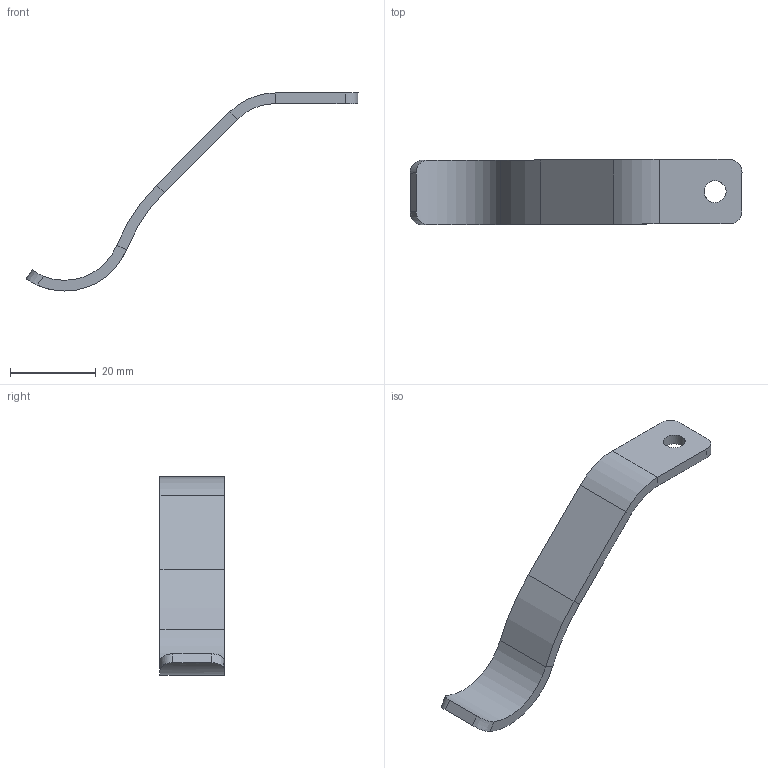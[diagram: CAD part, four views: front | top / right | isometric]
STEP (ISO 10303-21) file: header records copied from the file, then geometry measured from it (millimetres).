
FILE_DESCRIPTION(('CATIA V5 STEP'),'2;1');
FILE_NAME('E:\Gao Bingchuan\Desktop\SQX3000-6901102_D.stp','2021-11-19T13:14:30+00:00',('none'),('none'),'CATIA Version 5 Release 20 GA (IN-10)','CATIA V5 STEP AP203 WITH EXTENSIONS','none');
FILE_SCHEMA(('CONFIG_CONTROL_DESIGN','SHAPE_APPEARANCE_LAYER_MIM'));
Length unit declared in the file: millimetre
Products named in the file (1): SQX3000-6901102
Bounding box: 77.21 x 15.12 x 46.07 mm (x, y, z)
Volume: 3539.5 mm3; surface area: 3415 mm2
Topology: 1 solids, 1 shells, 30 faces, 68 edges, 40 vertices
Faces by surface type: plane 13, cylinder 12, bspline 5
Entity records: 1088 total; most frequent: CARTESIAN_POINT 429, ORIENTED_EDGE 136, DIRECTION 95, EDGE_CURVE 68, VERTEX_POINT 40, AXIS2_PLACEMENT_3D 39, VECTOR 32, EDGE_LOOP 32
